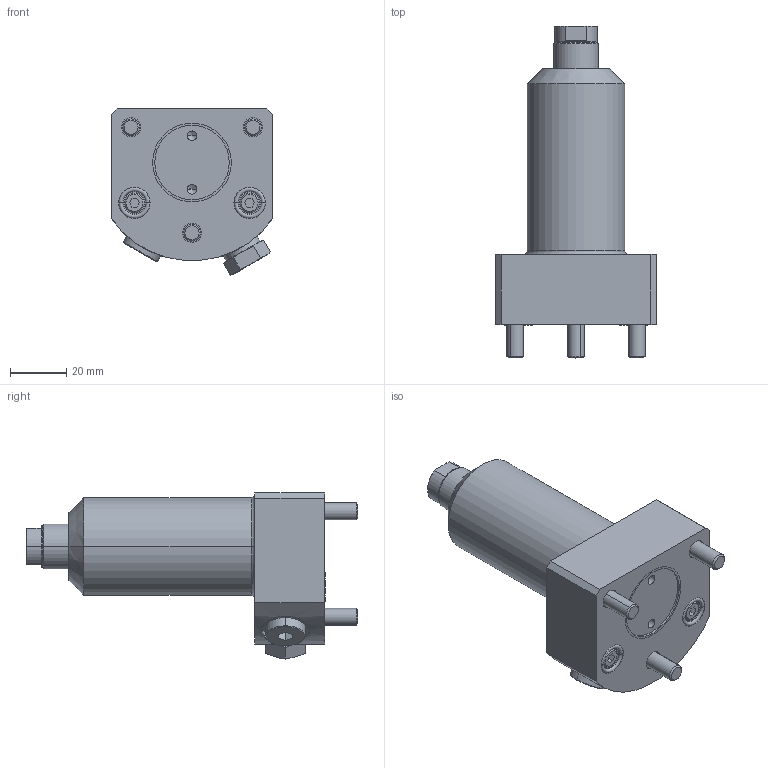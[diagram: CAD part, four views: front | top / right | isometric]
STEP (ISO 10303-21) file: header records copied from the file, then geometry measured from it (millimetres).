
FILE_DESCRIPTION((''),'2;1');
FILE_NAME('PLSS-52_ASM','2013-01-03T',('chad.steele'),(''),'PRO/ENGINEER BY PARAMETRIC TECHNOLOGY CORPORATION, 2010040','PRO/ENGINEER BY PARAMETRIC TECHNOLOGY CORPORATION, 2010040','');
FILE_SCHEMA(('CONFIG_CONTROL_DESIGN'));
Length unit declared in the file: inch
Products named in the file (11): PA1242005; PA1250005; PA1252044; PA1303167; CCA411028; B1011803; CS236006; CCA625028; PA1269024; PA1818040; PLSS-52_ASM
Assembly tree (15 placements, depth 2):
  PLSS-52_ASM
    PA1242005
    PA1250005
    PA1252044
    PA1303167  x2
    CCA411028  x2
    B1011803  x2
    CS236006
    CCA625028  x3
    PA1269024
    PA1818040
Bounding box: 57.15 x 118.01 x 59.08 mm (x, y, z)
Volume: 211530.1 mm3; surface area: 72660 mm2
Topology: 15 solids, 27 shells, 473 faces, 1052 edges, 650 vertices
Faces by surface type: cylinder 193, plane 140, cone 103, torus 32, bspline 4, sphere 1
Entity records: 12193 total; most frequent: CARTESIAN_POINT 2528, DIRECTION 2212, ORIENTED_EDGE 1736, AXIS2_PLACEMENT_3D 923, EDGE_CURVE 894, VERTEX_POINT 566, EDGE_LOOP 492, CIRCLE 484
